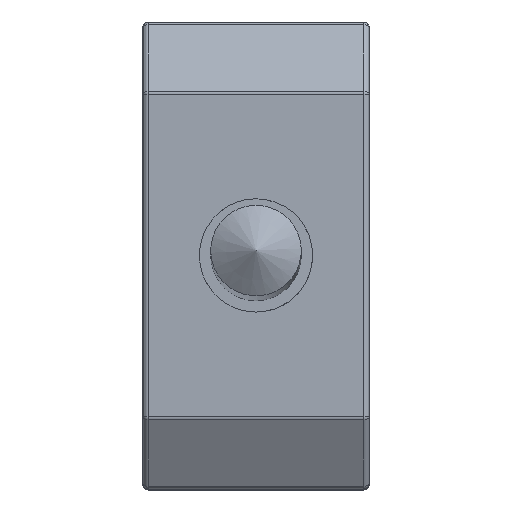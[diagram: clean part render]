
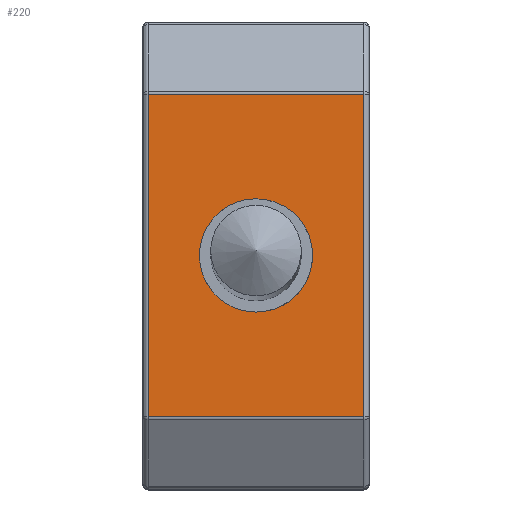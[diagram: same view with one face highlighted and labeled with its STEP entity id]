
A CAD part, top view. The second image highlights one B-rep face of the part: STEP entity #220.
In plain terms, the highlighted planar face has unit normal (0, 0, 1).
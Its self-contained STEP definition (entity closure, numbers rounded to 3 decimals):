
#52 = FACE_BOUND ( 'NONE', #1537, .T. ) ;
#96 = LINE ( 'NONE', #117, #3543 ) ;
#117 = CARTESIAN_POINT ( 'NONE',  ( -3.8, -31.853, -18.561 ) ) ;
#174 = EDGE_CURVE ( 'NONE', #2134, #2134, #1208, .T. ) ;
#198 = ORIENTED_EDGE ( 'NONE', *, *, #2791, .T. ) ;
#220 = ADVANCED_FACE ( 'NONE', ( #52, #3242 ), #2642, .F. ) ;
#314 = LINE ( 'NONE', #4121, #2495 ) ;
#364 = VERTEX_POINT ( 'NONE', #2138 ) ;
#690 = DIRECTION ( 'NONE',  ( 0., 1., 0. ) ) ;
#770 = LINE ( 'NONE', #2953, #3947 ) ;
#902 = DIRECTION ( 'NONE',  ( 0., -1., 0. ) ) ;
#1010 = AXIS2_PLACEMENT_3D ( 'NONE', #1837, #3105, #902 ) ;
#1026 = CARTESIAN_POINT ( 'NONE',  ( 3.8, -45.797, -18.561 ) ) ;
#1208 = CIRCLE ( 'NONE', #1010, 2. ) ;
#1240 = ORIENTED_EDGE ( 'NONE', *, *, #174, .F. ) ;
#1361 = EDGE_CURVE ( 'NONE', #1949, #2884, #96, .T. ) ;
#1537 = EDGE_LOOP ( 'NONE', ( #1240 ) ) ;
#1683 = EDGE_LOOP ( 'NONE', ( #3187, #1843, #198, #2510 ) ) ;
#1733 = AXIS2_PLACEMENT_3D ( 'NONE', #1954, #3581, #690 ) ;
#1753 = DIRECTION ( 'NONE',  ( 0., 1., 0. ) ) ;
#1837 = CARTESIAN_POINT ( 'NONE',  ( 0., -40.103, -18.561 ) ) ;
#1843 = ORIENTED_EDGE ( 'NONE', *, *, #1361, .T. ) ;
#1914 = DIRECTION ( 'NONE',  ( 1., 0., 0. ) ) ;
#1949 = VERTEX_POINT ( 'NONE', #2992 ) ;
#1954 = CARTESIAN_POINT ( 'NONE',  ( 4., -31.853, -18.561 ) ) ;
#2003 = CARTESIAN_POINT ( 'NONE',  ( -3.8, -45.797, -18.561 ) ) ;
#2134 = VERTEX_POINT ( 'NONE', #2178 ) ;
#2138 = CARTESIAN_POINT ( 'NONE',  ( 3.8, -34.408, -18.561 ) ) ;
#2178 = CARTESIAN_POINT ( 'NONE',  ( 0., -42.103, -18.561 ) ) ;
#2403 = EDGE_CURVE ( 'NONE', #364, #1949, #770, .T. ) ;
#2495 = VECTOR ( 'NONE', #1914, 1000. ) ;
#2510 = ORIENTED_EDGE ( 'NONE', *, *, #4045, .T. ) ;
#2612 = LINE ( 'NONE', #3294, #3703 ) ;
#2642 = PLANE ( 'NONE',  #1733 ) ;
#2791 = EDGE_CURVE ( 'NONE', #2884, #3208, #314, .T. ) ;
#2884 = VERTEX_POINT ( 'NONE', #2003 ) ;
#2953 = CARTESIAN_POINT ( 'NONE',  ( 4., -34.408, -18.561 ) ) ;
#2992 = CARTESIAN_POINT ( 'NONE',  ( -3.8, -34.408, -18.561 ) ) ;
#3105 = DIRECTION ( 'NONE',  ( 0., 0., 1. ) ) ;
#3187 = ORIENTED_EDGE ( 'NONE', *, *, #2403, .T. ) ;
#3208 = VERTEX_POINT ( 'NONE', #1026 ) ;
#3242 = FACE_OUTER_BOUND ( 'NONE', #1683, .T. ) ;
#3262 = DIRECTION ( 'NONE',  ( -1., 0., 0. ) ) ;
#3294 = CARTESIAN_POINT ( 'NONE',  ( 3.8, -34.353, -18.561 ) ) ;
#3522 = DIRECTION ( 'NONE',  ( 0., -1., 0. ) ) ;
#3543 = VECTOR ( 'NONE', #3522, 1000. ) ;
#3581 = DIRECTION ( 'NONE',  ( 0., 0., -1. ) ) ;
#3703 = VECTOR ( 'NONE', #1753, 1000. ) ;
#3947 = VECTOR ( 'NONE', #3262, 1000. ) ;
#4045 = EDGE_CURVE ( 'NONE', #3208, #364, #2612, .T. ) ;
#4121 = CARTESIAN_POINT ( 'NONE',  ( 4., -45.797, -18.561 ) ) ;
